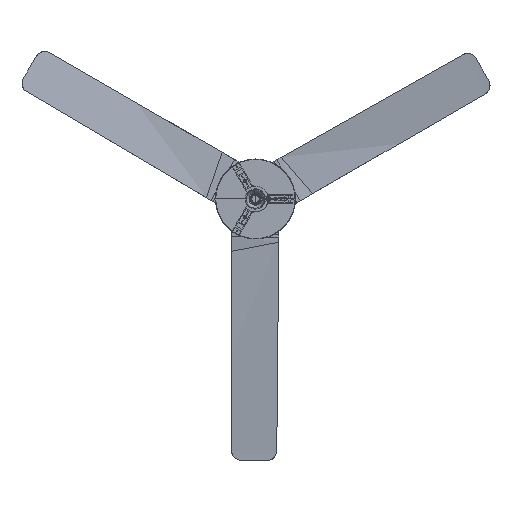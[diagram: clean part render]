
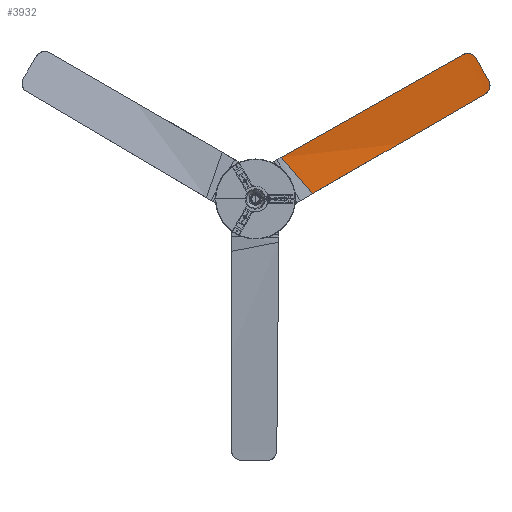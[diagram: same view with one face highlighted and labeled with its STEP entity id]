
A CAD part, top view. The second image highlights one B-rep face of the part: STEP entity #3932.
In plain terms, the highlighted free-form (B-spline) face has degree [3, 1] with [6, 2] control points.
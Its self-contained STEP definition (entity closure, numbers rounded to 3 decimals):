
#3932=ADVANCED_FACE('',(#4481),#13454,.T.);
#4481=FACE_OUTER_BOUND('',#5030,.T.);
#5030=EDGE_LOOP('',(#5594,#5595,#5596,#5597,#5598,#5599));
#5594=ORIENTED_EDGE('',*,*,#8430,.T.);
#5595=ORIENTED_EDGE('',*,*,#8431,.T.);
#5596=ORIENTED_EDGE('',*,*,#8432,.T.);
#5597=ORIENTED_EDGE('',*,*,#8433,.T.);
#5598=ORIENTED_EDGE('',*,*,#8434,.T.);
#5599=ORIENTED_EDGE('',*,*,#8435,.T.);
#8430=EDGE_CURVE('',#11759,#11760,#10458,.T.);
#8431=EDGE_CURVE('',#11760,#11761,#10459,.T.);
#8432=EDGE_CURVE('',#11761,#11762,#10460,.T.);
#8433=EDGE_CURVE('',#11762,#11763,#10461,.T.);
#8434=EDGE_CURVE('',#11763,#11764,#10462,.T.);
#8435=EDGE_CURVE('',#11764,#11759,#10463,.T.);
#10458=B_SPLINE_CURVE_WITH_KNOTS('',1,(#15716,#15717),.UNSPECIFIED.,.F.,
 .F.,(2,2),(0.,119.505),.UNSPECIFIED.);
#10459=B_SPLINE_CURVE_WITH_KNOTS('',3,(#15718,#15719,#15720,#15721,#15722,
#15723,#15724,#15725,#15726,#15727,#15728,#15729,#15730,#15731,#15732,#15733,
#15734,#15735,#15736),.UNSPECIFIED.,.F.,.F.,(4,3,3,3,3,3,4),(0.,72.975,
152.356,248.414,334.537,422.643,496.831),
 .UNSPECIFIED.);
#10460=B_SPLINE_CURVE_WITH_KNOTS('',3,(#15737,#15738,#15739,#15740,#15741,
#15742,#15743,#15744,#15745,#15746),.UNSPECIFIED.,.F.,.F.,(4,2,2,2,4),(0.,
9.898,19.216,28.878,38.429),
 .UNSPECIFIED.);
#10461=B_SPLINE_CURVE_WITH_KNOTS('',3,(#15747,#15748,#15749,#15750,#15751,
#15752),.UNSPECIFIED.,.F.,.F.,(4,2,4),(0.,31.713,63.426),
 .UNSPECIFIED.);
#10462=B_SPLINE_CURVE_WITH_KNOTS('',3,(#15753,#15754,#15755,#15756,#15757,
#15758,#15759,#15760,#15761,#15762),.UNSPECIFIED.,.F.,.F.,(4,2,2,2,4),(0.,
9.02,18.45,27.437,36.898),
 .UNSPECIFIED.);
#10463=B_SPLINE_CURVE_WITH_KNOTS('',3,(#15763,#15764,#15765,#15766,#15767,
#15768),.UNSPECIFIED.,.F.,.F.,(4,2,4),(0.,260.471,520.938),
 .UNSPECIFIED.);
#11759=VERTEX_POINT('',#15710);
#11760=VERTEX_POINT('',#15711);
#11761=VERTEX_POINT('',#15712);
#11762=VERTEX_POINT('',#15713);
#11763=VERTEX_POINT('',#15714);
#11764=VERTEX_POINT('',#15715);
#13454=B_SPLINE_SURFACE_WITH_KNOTS('',3,1,((#15698,#15699),(#15700,#15701),
(#15702,#15703),(#15704,#15705),(#15706,#15707),(#15708,#15709)),
 .UNSPECIFIED.,.F.,.F.,.F.,(4,1,1,4),(2,2),(0.,184.784,
369.567,542.804),(0.,119.831),.UNSPECIFIED.);
#15698=CARTESIAN_POINT('',(456.021,-3503.474,79.68));
#15699=CARTESIAN_POINT('',(377.607,-3413.019,85.026));
#15700=CARTESIAN_POINT('',(507.101,-3473.983,74.949));
#15701=CARTESIAN_POINT('',(430.934,-3382.23,84.157));
#15702=CARTESIAN_POINT('',(609.448,-3414.893,67.936));
#15703=CARTESIAN_POINT('',(537.609,-3320.642,83.211));
#15704=CARTESIAN_POINT('',(760.036,-3327.951,64.853));
#15705=CARTESIAN_POINT('',(694.309,-3230.171,84.147));
#15706=CARTESIAN_POINT('',(859.353,-3270.611,67.435));
#15707=CARTESIAN_POINT('',(797.652,-3170.506,86.25));
#15708=CARTESIAN_POINT('',(907.368,-3242.889,69.763));
#15709=CARTESIAN_POINT('',(847.648,-3141.64,87.616));
#15710=CARTESIAN_POINT('',(377.607,-3413.019,85.026));
#15711=CARTESIAN_POINT('',(455.807,-3503.228,79.695));
#15712=CARTESIAN_POINT('',(885.748,-3255.063,68.835));
#15713=CARTESIAN_POINT('',(893.886,-3221.728,73.538));
#15714=CARTESIAN_POINT('',(862.769,-3167.292,83.094));
#15715=CARTESIAN_POINT('',(831.17,-3156.857,86.349));
#15716=CARTESIAN_POINT('',(377.607,-3413.019,85.026));
#15717=CARTESIAN_POINT('',(455.807,-3503.228,79.695));
#15718=CARTESIAN_POINT('',(455.807,-3503.228,79.695));
#15719=CARTESIAN_POINT('',(476.842,-3491.153,77.752));
#15720=CARTESIAN_POINT('',(497.879,-3479.066,76.014));
#15721=CARTESIAN_POINT('',(518.92,-3466.968,74.483));
#15722=CARTESIAN_POINT('',(541.814,-3453.804,72.816));
#15723=CARTESIAN_POINT('',(564.713,-3440.626,71.394));
#15724=CARTESIAN_POINT('',(587.62,-3427.432,70.217));
#15725=CARTESIAN_POINT('',(615.329,-3411.472,68.793));
#15726=CARTESIAN_POINT('',(643.049,-3395.489,67.728));
#15727=CARTESIAN_POINT('',(670.786,-3379.479,67.025));
#15728=CARTESIAN_POINT('',(695.653,-3365.125,66.395));
#15729=CARTESIAN_POINT('',(720.506,-3350.766,66.056));
#15730=CARTESIAN_POINT('',(745.35,-3336.4,66.008));
#15731=CARTESIAN_POINT('',(770.774,-3321.697,65.959));
#15732=CARTESIAN_POINT('',(796.188,-3306.986,66.214));
#15733=CARTESIAN_POINT('',(821.597,-3292.264,66.774));
#15734=CARTESIAN_POINT('',(842.984,-3279.872,67.245));
#15735=CARTESIAN_POINT('',(864.366,-3267.472,67.932));
#15736=CARTESIAN_POINT('',(885.748,-3255.063,68.835));
#15737=CARTESIAN_POINT('',(885.748,-3255.063,68.835));
#15738=CARTESIAN_POINT('',(888.504,-3253.273,68.98));
#15739=CARTESIAN_POINT('',(890.885,-3250.97,69.226));
#15740=CARTESIAN_POINT('',(894.517,-3245.756,69.862));
#15741=CARTESIAN_POINT('',(895.796,-3242.932,70.238));
#15742=CARTESIAN_POINT('',(897.283,-3236.863,71.099));
#15743=CARTESIAN_POINT('',(897.437,-3233.662,71.579));
#15744=CARTESIAN_POINT('',(896.52,-3227.421,72.565));
#15745=CARTESIAN_POINT('',(895.472,-3224.436,73.061));
#15746=CARTESIAN_POINT('',(893.886,-3221.728,73.538));
#15747=CARTESIAN_POINT('',(893.886,-3221.728,73.538));
#15748=CARTESIAN_POINT('',(888.7,-3212.656,75.132));
#15749=CARTESIAN_POINT('',(883.514,-3203.583,76.725));
#15750=CARTESIAN_POINT('',(873.142,-3185.438,79.91));
#15751=CARTESIAN_POINT('',(867.955,-3176.365,81.502));
#15752=CARTESIAN_POINT('',(862.769,-3167.292,83.094));
#15753=CARTESIAN_POINT('',(862.769,-3167.292,83.094));
#15754=CARTESIAN_POINT('',(861.331,-3164.701,83.546));
#15755=CARTESIAN_POINT('',(859.427,-3162.394,83.98));
#15756=CARTESIAN_POINT('',(854.769,-3158.49,84.795));
#15757=CARTESIAN_POINT('',(852.024,-3156.965,85.164));
#15758=CARTESIAN_POINT('',(846.237,-3155.059,85.757));
#15759=CARTESIAN_POINT('',(843.263,-3154.643,85.983));
#15760=CARTESIAN_POINT('',(837.144,-3154.884,86.293));
#15761=CARTESIAN_POINT('',(834.052,-3155.596,86.366));
#15762=CARTESIAN_POINT('',(831.17,-3156.857,86.349));
#15763=CARTESIAN_POINT('',(831.17,-3156.857,86.349));
#15764=CARTESIAN_POINT('',(755.591,-3199.543,84.504));
#15765=CARTESIAN_POINT('',(679.994,-3242.238,83.543));
#15766=CARTESIAN_POINT('',(528.797,-3327.63,83.174));
#15767=CARTESIAN_POINT('',(453.193,-3370.33,83.766));
#15768=CARTESIAN_POINT('',(377.607,-3413.019,85.026));
